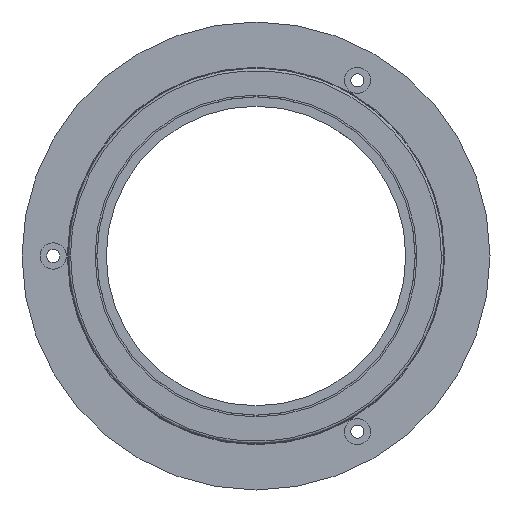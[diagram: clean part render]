
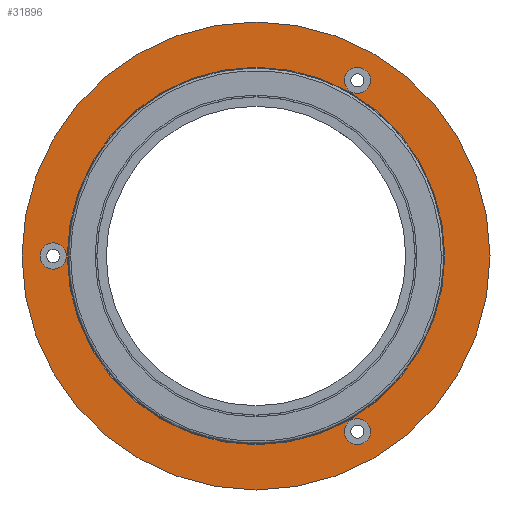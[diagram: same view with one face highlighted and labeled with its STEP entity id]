
A CAD part, left-side view. The second image highlights one B-rep face of the part: STEP entity #31896.
In plain terms, the highlighted planar face has unit normal (-1, 0, 0).
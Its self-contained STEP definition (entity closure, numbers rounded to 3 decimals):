
#285 = ORIENTED_EDGE ( 'NONE', *, *, #14069, .F. ) ;
#705 = CARTESIAN_POINT ( 'NONE',  ( 2.8, 32.5, 0. ) ) ;
#764 = CARTESIAN_POINT ( 'NONE',  ( 2.8, 0., -37.5 ) ) ;
#1542 = EDGE_LOOP ( 'NONE', ( #34080, #5028 ) ) ;
#1940 = CIRCLE ( 'NONE', #4245, 2.1 ) ;
#2488 = DIRECTION ( 'NONE',  ( -1., 0., 0. ) ) ;
#3246 = ORIENTED_EDGE ( 'NONE', *, *, #35527, .T. ) ;
#3938 = DIRECTION ( 'NONE',  ( 0., 0., -1. ) ) ;
#4085 = EDGE_CURVE ( 'NONE', #23380, #31422, #27498, .T. ) ;
#4245 = AXIS2_PLACEMENT_3D ( 'NONE', #34427, #15140, #37665 ) ;
#5028 = ORIENTED_EDGE ( 'NONE', *, *, #15036, .T. ) ;
#5980 = FACE_BOUND ( 'NONE', #30964, .T. ) ;
#6413 = DIRECTION ( 'NONE',  ( -1., 0., 0. ) ) ;
#6879 = DIRECTION ( 'NONE',  ( 1., 0., 0. ) ) ;
#7594 = AXIS2_PLACEMENT_3D ( 'NONE', #26137, #6879, #29367 ) ;
#8360 = EDGE_CURVE ( 'NONE', #19656, #29289, #1940, .T. ) ;
#8406 = DIRECTION ( 'NONE',  ( 1., 0., 0. ) ) ;
#8442 = EDGE_CURVE ( 'NONE', #24387, #38020, #16028, .T. ) ;
#9498 = DIRECTION ( 'NONE',  ( 1., 0., 0. ) ) ;
#9755 = AXIS2_PLACEMENT_3D ( 'NONE', #35672, #16373, #38899 ) ;
#11181 = CIRCLE ( 'NONE', #16340, 2.1 ) ;
#14069 = EDGE_CURVE ( 'NONE', #15365, #30558, #35839, .T. ) ;
#15036 = EDGE_CURVE ( 'NONE', #29289, #19656, #11181, .T. ) ;
#15140 = DIRECTION ( 'NONE',  ( 1., 0., 0. ) ) ;
#15365 = VERTEX_POINT ( 'NONE', #35267 ) ;
#15408 = EDGE_LOOP ( 'NONE', ( #22486, #41267 ) ) ;
#16028 = CIRCLE ( 'NONE', #39580, 27.5 ) ;
#16340 = AXIS2_PLACEMENT_3D ( 'NONE', #27660, #8406, #30878 ) ;
#16373 = DIRECTION ( 'NONE',  ( 1., 0., 0. ) ) ;
#16527 = FACE_BOUND ( 'NONE', #1542, .T. ) ;
#16591 = EDGE_CURVE ( 'NONE', #38020, #24387, #22116, .T. ) ;
#16968 = CARTESIAN_POINT ( 'NONE',  ( 2.8, 0., -27.5 ) ) ;
#17262 = DIRECTION ( 'NONE',  ( 1., 0., 0. ) ) ;
#17283 = CARTESIAN_POINT ( 'NONE',  ( 2.8, -16.25, 26.046 ) ) ;
#18289 = CARTESIAN_POINT ( 'NONE',  ( 2.8, 0., 0. ) ) ;
#18486 = ORIENTED_EDGE ( 'NONE', *, *, #32775, .T. ) ;
#18752 = DIRECTION ( 'NONE',  ( 1., 0., 0. ) ) ;
#19333 = ORIENTED_EDGE ( 'NONE', *, *, #4085, .T. ) ;
#19656 = VERTEX_POINT ( 'NONE', #33097 ) ;
#19985 = AXIS2_PLACEMENT_3D ( 'NONE', #25667, #6413, #28897 ) ;
#20097 = VERTEX_POINT ( 'NONE', #32374 ) ;
#20284 = CIRCLE ( 'NONE', #26145, 37.5 ) ;
#20333 = CIRCLE ( 'NONE', #41701, 2.1 ) ;
#21055 = AXIS2_PLACEMENT_3D ( 'NONE', #38033, #18752, #37281 ) ;
#21477 = DIRECTION ( 'NONE',  ( 0., 0., 1. ) ) ;
#21690 = CARTESIAN_POINT ( 'NONE',  ( 2.8, 0., 0. ) ) ;
#21853 = AXIS2_PLACEMENT_3D ( 'NONE', #705, #23142, #3938 ) ;
#22116 = CIRCLE ( 'NONE', #37707, 27.5 ) ;
#22486 = ORIENTED_EDGE ( 'NONE', *, *, #16591, .F. ) ;
#22798 = EDGE_CURVE ( 'NONE', #30181, #20097, #29906, .T. ) ;
#23093 = CARTESIAN_POINT ( 'NONE',  ( 2.8, -16.25, 30.246 ) ) ;
#23142 = DIRECTION ( 'NONE',  ( 1., 0., 0. ) ) ;
#23380 = VERTEX_POINT ( 'NONE', #23093 ) ;
#24055 = CIRCLE ( 'NONE', #7594, 2.1 ) ;
#24387 = VERTEX_POINT ( 'NONE', #16968 ) ;
#24945 = DIRECTION ( 'NONE',  ( 0., 0., 1. ) ) ;
#25667 = CARTESIAN_POINT ( 'NONE',  ( 2.8, 37.5, 0. ) ) ;
#25879 = EDGE_LOOP ( 'NONE', ( #29780, #285 ) ) ;
#26137 = CARTESIAN_POINT ( 'NONE',  ( 2.8, -16.25, 28.146 ) ) ;
#26145 = AXIS2_PLACEMENT_3D ( 'NONE', #36568, #17262, #39817 ) ;
#27379 = CARTESIAN_POINT ( 'NONE',  ( 2.8, 32.5, 2.1 ) ) ;
#27498 = CIRCLE ( 'NONE', #9755, 2.1 ) ;
#27660 = CARTESIAN_POINT ( 'NONE',  ( 2.8, -16.25, -28.146 ) ) ;
#28701 = CARTESIAN_POINT ( 'NONE',  ( 2.8, 32.5, 0. ) ) ;
#28897 = DIRECTION ( 'NONE',  ( 0., 0., 1. ) ) ;
#29289 = VERTEX_POINT ( 'NONE', #33644 ) ;
#29367 = DIRECTION ( 'NONE',  ( 0., 0., -1. ) ) ;
#29780 = ORIENTED_EDGE ( 'NONE', *, *, #39417, .F. ) ;
#29906 = CIRCLE ( 'NONE', #21853, 2.1 ) ;
#30181 = VERTEX_POINT ( 'NONE', #27379 ) ;
#30558 = VERTEX_POINT ( 'NONE', #764 ) ;
#30623 = FACE_OUTER_BOUND ( 'NONE', #25879, .T. ) ;
#30878 = DIRECTION ( 'NONE',  ( 0., 0., -1. ) ) ;
#30964 = EDGE_LOOP ( 'NONE', ( #3246, #40781 ) ) ;
#31422 = VERTEX_POINT ( 'NONE', #17283 ) ;
#31663 = FACE_BOUND ( 'NONE', #34592, .T. ) ;
#31896 = ADVANCED_FACE ( 'NONE', ( #40243, #5980, #16527, #31663, #30623 ), #35287, .T. ) ;
#31961 = DIRECTION ( 'NONE',  ( 0., 0., -1. ) ) ;
#32374 = CARTESIAN_POINT ( 'NONE',  ( 2.8, 32.5, -2.1 ) ) ;
#32775 = EDGE_CURVE ( 'NONE', #31422, #23380, #24055, .T. ) ;
#33097 = CARTESIAN_POINT ( 'NONE',  ( 2.8, -16.25, -30.246 ) ) ;
#33151 = CARTESIAN_POINT ( 'NONE',  ( 2.8, 0., 27.5 ) ) ;
#33644 = CARTESIAN_POINT ( 'NONE',  ( 2.8, -16.25, -26.046 ) ) ;
#34080 = ORIENTED_EDGE ( 'NONE', *, *, #8360, .T. ) ;
#34427 = CARTESIAN_POINT ( 'NONE',  ( 2.8, -16.25, -28.146 ) ) ;
#34592 = EDGE_LOOP ( 'NONE', ( #18486, #19333 ) ) ;
#35267 = CARTESIAN_POINT ( 'NONE',  ( 2.8, 0., 37.5 ) ) ;
#35287 = PLANE ( 'NONE',  #19985 ) ;
#35527 = EDGE_CURVE ( 'NONE', #20097, #30181, #20333, .T. ) ;
#35672 = CARTESIAN_POINT ( 'NONE',  ( 2.8, -16.25, 28.146 ) ) ;
#35839 = CIRCLE ( 'NONE', #21055, 37.5 ) ;
#36568 = CARTESIAN_POINT ( 'NONE',  ( 2.8, 0., 0. ) ) ;
#37281 = DIRECTION ( 'NONE',  ( 0., 0., -1. ) ) ;
#37665 = DIRECTION ( 'NONE',  ( 0., 0., -1. ) ) ;
#37707 = AXIS2_PLACEMENT_3D ( 'NONE', #18289, #40836, #21477 ) ;
#38020 = VERTEX_POINT ( 'NONE', #33151 ) ;
#38033 = CARTESIAN_POINT ( 'NONE',  ( 2.8, 0., 0. ) ) ;
#38899 = DIRECTION ( 'NONE',  ( 0., 0., -1. ) ) ;
#39417 = EDGE_CURVE ( 'NONE', #30558, #15365, #20284, .T. ) ;
#39580 = AXIS2_PLACEMENT_3D ( 'NONE', #21690, #2488, #24945 ) ;
#39817 = DIRECTION ( 'NONE',  ( 0., 0., -1. ) ) ;
#40243 = FACE_BOUND ( 'NONE', #15408, .T. ) ;
#40781 = ORIENTED_EDGE ( 'NONE', *, *, #22798, .T. ) ;
#40836 = DIRECTION ( 'NONE',  ( -1., 0., 0. ) ) ;
#41267 = ORIENTED_EDGE ( 'NONE', *, *, #8442, .F. ) ;
#41701 = AXIS2_PLACEMENT_3D ( 'NONE', #28701, #9498, #31961 ) ;
